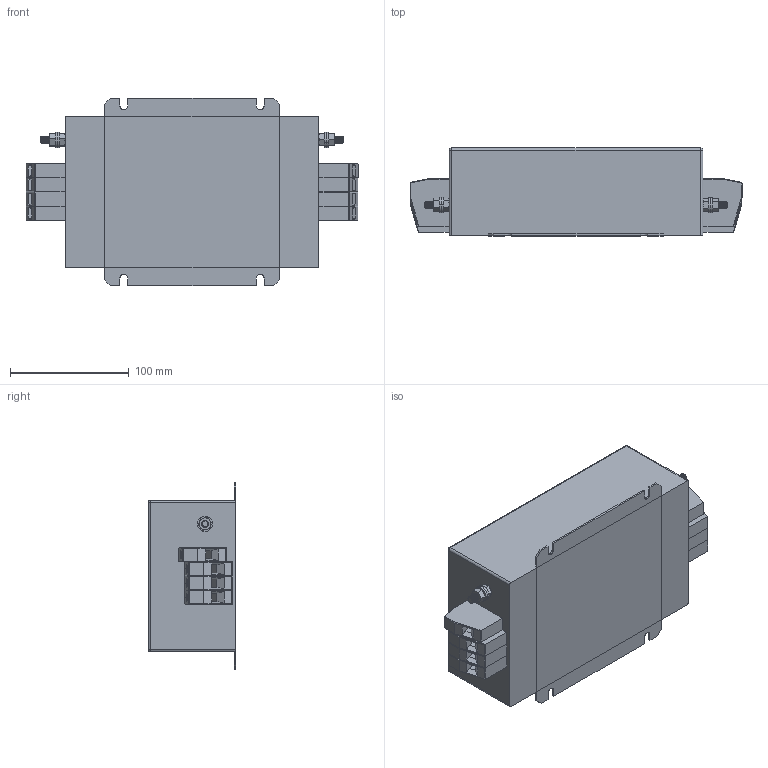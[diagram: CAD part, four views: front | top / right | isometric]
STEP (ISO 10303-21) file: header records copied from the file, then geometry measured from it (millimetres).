
FILE_DESCRIPTION (( 'STEP AP203' ), '1' );
FILE_NAME ('NF-4-64-FTT.STEP', '2021-07-19T12:48:22', ( '' ), ( '' ), 'SwSTEP 2.0', 'SolidWorks 2017', '' );
FILE_SCHEMA (( 'CONFIG_CONTROL_DESIGN' ));
Length unit declared in the file: millimetre
Products named in the file (7): FNT-4 case; flat washer narrow_am_B18.22M - Plain washer, 6 mm, narrow; hex screw_am_B18.6.7M - M6 x 1.0 x 16 Indented HHMS --16S; HDFK-16; hex nut style 1_am_B18.2.4.1M - Hex nut, Style 1,  M6 x 1 --D-N; M6x16 Earth post; NF-4-64-FTT
Assembly tree (15 placements, depth 3):
  NF-4-64-FTT
    FNT-4 case
    M6x16 Earth post  x2
      flat washer narrow_am_B18.22M - Plain washer, 6 mm, narrow
      hex nut style 1_am_B18.2.4.1M - Hex nut, Style 1,  M6 x 1 --D-N
      hex screw_am_B18.6.7M - M6 x 1.0 x 16 Indented HHMS --16S
    HDFK-16  x8
Bounding box: 280.01 x 74 x 158 mm (x, y, z)
Volume: 2123672.9 mm3; surface area: 227710.5 mm2
Topology: 18 solids, 18 shells, 944 faces, 2196 edges, 1336 vertices
Faces by surface type: plane 584, cone 200, cylinder 156, sphere 4
Entity records: 9389 total; most frequent: CARTESIAN_POINT 1595, DIRECTION 1504, ORIENTED_EDGE 1376, EDGE_CURVE 688, AXIS2_PLACEMENT_3D 551, VERTEX_POINT 426, LINE 402, VECTOR 402
